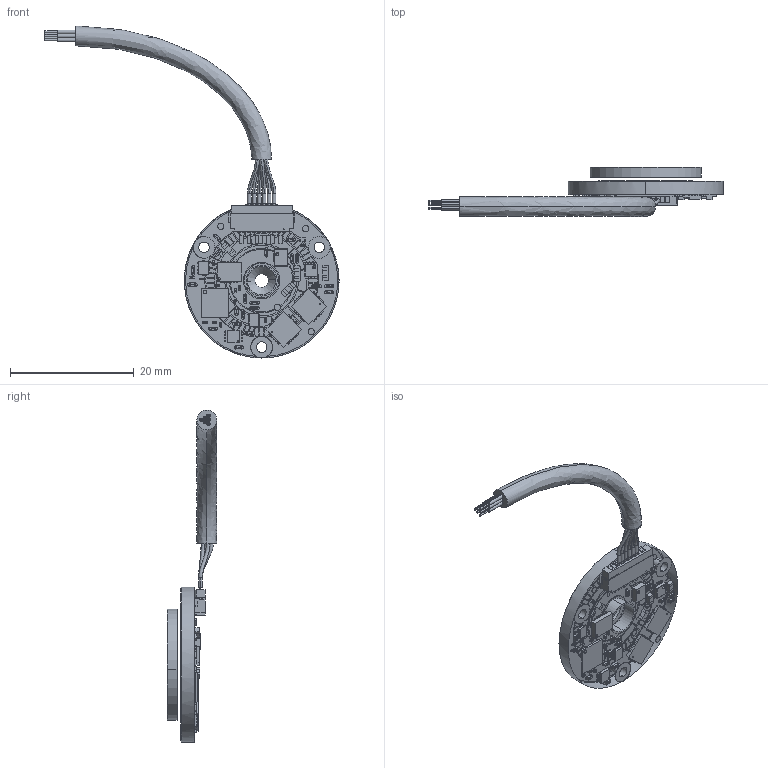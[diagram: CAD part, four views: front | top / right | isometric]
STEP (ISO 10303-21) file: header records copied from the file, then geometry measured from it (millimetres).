
FILE_DESCRIPTION (( 'STEP AP214' ), '1' );
FILE_NAME ('VLX-25 16-3 Endshaft rotor.STEP', '2025-03-23T13:38:31', ( '' ), ( '' ), 'SwSTEP 2.0', 'SolidWorks 2022', '' );
FILE_SCHEMA (( 'AUTOMOTIVE_DESIGN' ));
Length unit declared in the file: millimetre
Products named in the file (7): VLP-25 cable; DF52-10P-0.8C; EA-00557_VLX-25; PB-00557-Components_VLX without copper; VLP-25 Tranceiver_PB-00557; VLP-25 Rotor_PB-00556; VLX-25 16-3 Endshaft rotor
Assembly tree (6 placements, depth 3):
  VLX-25 16-3 Endshaft rotor
    EA-00557_VLX-25
      VLP-25 Tranceiver_PB-00557
      PB-00557-Components_VLX without copper
    VLP-25 Rotor_PB-00556
    DF52-10P-0.8C
    VLP-25 cable
Bounding box: 47.5 x 7.97 x 53.62 mm (x, y, z)
Volume: 1770.1 mm3; surface area: 3055.3 mm2
Topology: 16 solids, 327 shells, 6871 faces, 17156 edges, 11291 vertices
Faces by surface type: plane 4340, cylinder 1187, bspline 1114, sphere 224, torus 4, cone 2
Entity records: 333706 total; most frequent: CARTESIAN_POINT 101871, ORIENTED_EDGE 33448, DIRECTION 28594, EDGE_CURVE 16740, VECTOR 11974, LINE 11974, VERTEX_POINT 11099, AXIS2_PLACEMENT_3D 8310
